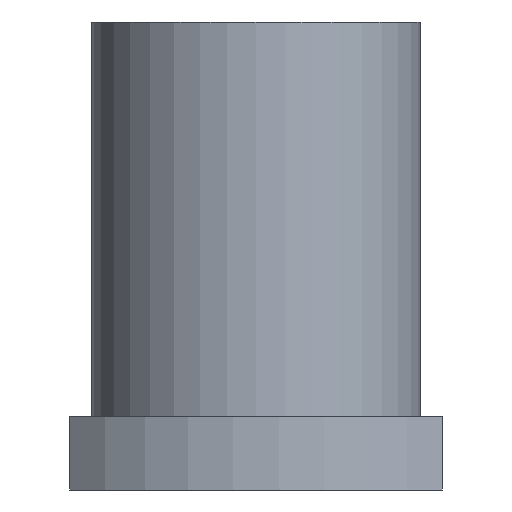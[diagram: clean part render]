
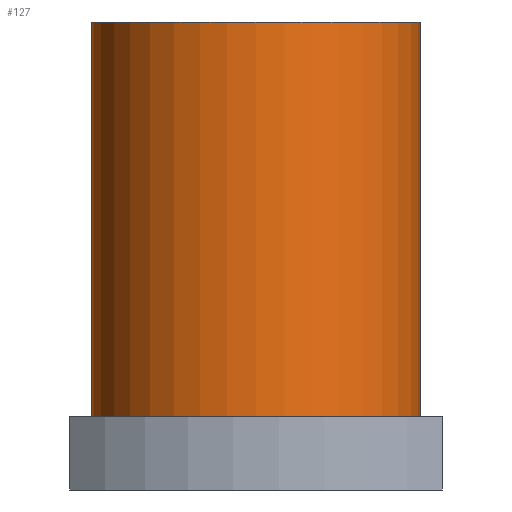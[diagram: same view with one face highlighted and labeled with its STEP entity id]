
A CAD part, front view. The second image highlights one B-rep face of the part: STEP entity #127.
In plain terms, the highlighted cylindrical face has radius 22.5 mm (diameter 45 mm), a partial arc.
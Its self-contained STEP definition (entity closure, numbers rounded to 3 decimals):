
#86=CARTESIAN_POINT('',(20.5,-21.58,0.0));
#87=DIRECTION('',(0.0,0.0,1.0));
#88=DIRECTION('',(-1.0,0.0,0.0));
#89=AXIS2_PLACEMENT_3D('',#86,#87,#88);
#90=CYLINDRICAL_SURFACE('',#89,22.5);
#91=CARTESIAN_POINT('',(-2.,-21.58,10.0));
#92=VERTEX_POINT('',#91);
#93=CARTESIAN_POINT('',(-2.,-21.58,64.0));
#94=VERTEX_POINT('',#93);
#95=CARTESIAN_POINT('',(-2.,-21.58,10.0));
#96=DIRECTION('',(0.0,0.0,1.0));
#97=VECTOR('',#96,54.0);
#98=LINE('',#95,#97);
#99=EDGE_CURVE('',#92,#94,#98,.T.);
#100=ORIENTED_EDGE('',*,*,#99,.F.);
#101=CARTESIAN_POINT('',(43.,-21.58,10.0));
#102=VERTEX_POINT('',#101);
#103=CARTESIAN_POINT('',(20.5,-21.58,10.0));
#104=DIRECTION('',(0.0,0.0,-1.0));
#105=DIRECTION('',(-1.0,0.0,0.0));
#106=AXIS2_PLACEMENT_3D('',#103,#104,#105);
#107=CIRCLE('',#106,22.5);
#108=EDGE_CURVE('',#102,#92,#107,.T.);
#109=ORIENTED_EDGE('',*,*,#108,.F.);
#110=CARTESIAN_POINT('',(43.,-21.58,64.0));
#111=VERTEX_POINT('',#110);
#112=CARTESIAN_POINT('',(43.,-21.58,64.0));
#113=DIRECTION('',(0.0,0.0,-1.0));
#114=VECTOR('',#113,54.0);
#115=LINE('',#112,#114);
#116=EDGE_CURVE('',#111,#102,#115,.T.);
#117=ORIENTED_EDGE('',*,*,#116,.F.);
#118=CARTESIAN_POINT('',(20.5,-21.58,64.0));
#119=DIRECTION('',(0.0,0.0,-1.0));
#120=DIRECTION('',(-1.0,0.0,0.0));
#121=AXIS2_PLACEMENT_3D('',#118,#119,#120);
#122=CIRCLE('',#121,22.5);
#123=EDGE_CURVE('',#111,#94,#122,.T.);
#124=ORIENTED_EDGE('',*,*,#123,.T.);
#125=EDGE_LOOP('',(#100,#109,#117,#124));
#126=FACE_OUTER_BOUND('',#125,.T.);
#127=ADVANCED_FACE('',(#126),#90,.T.);
